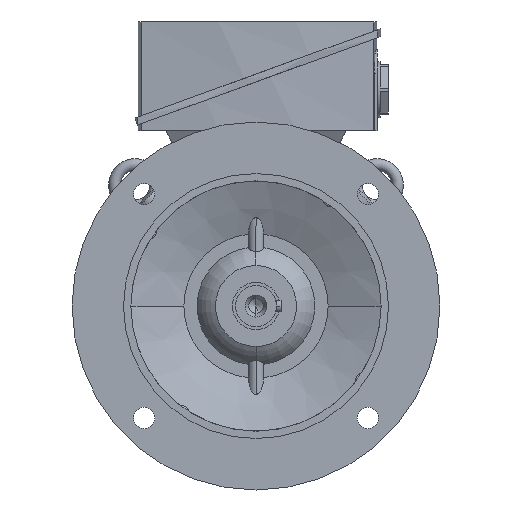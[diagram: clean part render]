
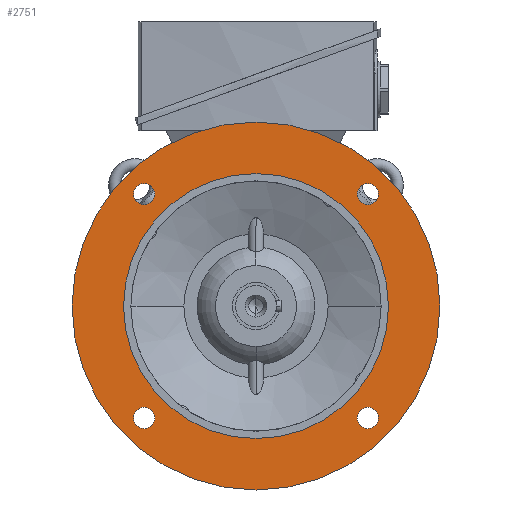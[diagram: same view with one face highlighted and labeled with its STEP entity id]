
A CAD part, left-side view. The second image highlights one B-rep face of the part: STEP entity #2751.
In plain terms, the highlighted planar face has unit normal (-1, 0, 0).
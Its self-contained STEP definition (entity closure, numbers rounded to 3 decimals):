
#2751=ADVANCED_FACE('',(#5562,#5563,#5564,#5565,#5566,#5567),#5568,.T.);
#5562=FACE_BOUND('',#8374,.T.);
#5563=FACE_BOUND('',#8375,.T.);
#5564=FACE_BOUND('',#8376,.T.);
#5565=FACE_BOUND('',#8377,.T.);
#5566=FACE_OUTER_BOUND('',#8378,.T.);
#5567=FACE_BOUND('',#8379,.T.);
#5568=PLANE('',#8380);
#8374=EDGE_LOOP('',(#16935,#16936));
#8375=EDGE_LOOP('',(#16937,#16938));
#8376=EDGE_LOOP('',(#16939,#16940));
#8377=EDGE_LOOP('',(#16941,#16942));
#8378=EDGE_LOOP('',(#16943,#16944));
#8379=EDGE_LOOP('',(#16945,#16946));
#8380=AXIS2_PLACEMENT_3D('',#16947,#16948,#16949);
#16935=ORIENTED_EDGE('',*,*,#20306,.T.);
#16936=ORIENTED_EDGE('',*,*,#17202,.T.);
#16937=ORIENTED_EDGE('',*,*,#20309,.T.);
#16938=ORIENTED_EDGE('',*,*,#17197,.T.);
#16939=ORIENTED_EDGE('',*,*,#20312,.T.);
#16940=ORIENTED_EDGE('',*,*,#17192,.T.);
#16941=ORIENTED_EDGE('',*,*,#20315,.T.);
#16942=ORIENTED_EDGE('',*,*,#17187,.T.);
#16943=ORIENTED_EDGE('',*,*,#17167,.F.);
#16944=ORIENTED_EDGE('',*,*,#20369,.F.);
#16945=ORIENTED_EDGE('',*,*,#17174,.T.);
#16946=ORIENTED_EDGE('',*,*,#20367,.T.);
#16947=CARTESIAN_POINT('',(-40.5,107.5,0.0));
#16948=DIRECTION('',(-1.0,0.0,0.0));
#16949=DIRECTION('',(0.0,-1.0,0.0));
#17167=EDGE_CURVE('',#20642,#20645,#20646,.T.);
#17174=EDGE_CURVE('',#20652,#20656,#20658,.T.);
#17187=EDGE_CURVE('',#20681,#20678,#20682,.T.);
#17192=EDGE_CURVE('',#20690,#20687,#20691,.T.);
#17197=EDGE_CURVE('',#20699,#20696,#20700,.T.);
#17202=EDGE_CURVE('',#20708,#20705,#20709,.T.);
#20306=EDGE_CURVE('',#20705,#20708,#25307,.T.);
#20309=EDGE_CURVE('',#20696,#20699,#25310,.T.);
#20312=EDGE_CURVE('',#20687,#20690,#25313,.T.);
#20315=EDGE_CURVE('',#20678,#20681,#25316,.T.);
#20367=EDGE_CURVE('',#20656,#20652,#25382,.T.);
#20369=EDGE_CURVE('',#20645,#20642,#25384,.T.);
#20642=VERTEX_POINT('',#25973);
#20645=VERTEX_POINT('',#25977);
#20646=CIRCLE('',#25978,125.0);
#20652=VERTEX_POINT('',#25985);
#20656=VERTEX_POINT('',#25990);
#20658=CIRCLE('',#25993,90.0);
#20678=VERTEX_POINT('',#26031);
#20681=VERTEX_POINT('',#26035);
#20682=CIRCLE('',#26036,7.25);
#20687=VERTEX_POINT('',#26042);
#20690=VERTEX_POINT('',#26046);
#20691=CIRCLE('',#26047,7.25);
#20696=VERTEX_POINT('',#26053);
#20699=VERTEX_POINT('',#26057);
#20700=CIRCLE('',#26058,7.25);
#20705=VERTEX_POINT('',#26064);
#20708=VERTEX_POINT('',#26068);
#20709=CIRCLE('',#26069,7.25);
#25307=CIRCLE('',#37664,7.25);
#25310=CIRCLE('',#37667,7.25);
#25313=CIRCLE('',#37670,7.25);
#25316=CIRCLE('',#37673,7.25);
#25382=CIRCLE('',#37813,90.0);
#25384=CIRCLE('',#37815,125.0);
#25973=CARTESIAN_POINT('',(-40.5,125.0,0.0));
#25977=CARTESIAN_POINT('',(-40.5,-125.0,0.));
#25978=AXIS2_PLACEMENT_3D('',#37982,#37983,#37984);
#25985=CARTESIAN_POINT('',(-40.5,90.0,0.0));
#25990=CARTESIAN_POINT('',(-40.5,-90.0,0.));
#25993=AXIS2_PLACEMENT_3D('',#37994,#37995,#37996);
#26031=CARTESIAN_POINT('',(-40.5,-81.141,81.141));
#26035=CARTESIAN_POINT('',(-40.5,-70.887,70.887));
#26036=AXIS2_PLACEMENT_3D('',#38016,#38017,#38018);
#26042=CARTESIAN_POINT('',(-40.5,81.141,81.141));
#26046=CARTESIAN_POINT('',(-40.5,70.887,70.887));
#26047=AXIS2_PLACEMENT_3D('',#38024,#38025,#38026);
#26053=CARTESIAN_POINT('',(-40.5,81.141,-81.141));
#26057=CARTESIAN_POINT('',(-40.5,70.887,-70.887));
#26058=AXIS2_PLACEMENT_3D('',#38032,#38033,#38034);
#26064=CARTESIAN_POINT('',(-40.5,-81.141,-81.141));
#26068=CARTESIAN_POINT('',(-40.5,-70.887,-70.887));
#26069=AXIS2_PLACEMENT_3D('',#38040,#38041,#38042);
#37664=AXIS2_PLACEMENT_3D('',#41110,#41111,#41112);
#37667=AXIS2_PLACEMENT_3D('',#41116,#41117,#41118);
#37670=AXIS2_PLACEMENT_3D('',#41122,#41123,#41124);
#37673=AXIS2_PLACEMENT_3D('',#41128,#41129,#41130);
#37813=AXIS2_PLACEMENT_3D('',#41169,#41170,#41171);
#37815=AXIS2_PLACEMENT_3D('',#41172,#41173,#41174);
#37982=CARTESIAN_POINT('',(-40.5,0.0,0.0));
#37983=DIRECTION('',(1.0,0.0,0.0));
#37984=DIRECTION('',(0.0,1.0,0.0));
#37994=CARTESIAN_POINT('',(-40.5,0.0,0.0));
#37995=DIRECTION('',(1.0,0.0,0.0));
#37996=DIRECTION('',(0.0,1.0,0.0));
#38016=CARTESIAN_POINT('',(-40.5,-76.014,76.014));
#38017=DIRECTION('',(1.0,0.0,-0.0));
#38018=DIRECTION('',(0.0,-0.707,0.707));
#38024=CARTESIAN_POINT('',(-40.5,76.014,76.014));
#38025=DIRECTION('',(1.0,0.0,-0.0));
#38026=DIRECTION('',(0.0,0.707,0.707));
#38032=CARTESIAN_POINT('',(-40.5,76.014,-76.014));
#38033=DIRECTION('',(1.0,-0.0,0.0));
#38034=DIRECTION('',(0.0,0.707,-0.707));
#38040=CARTESIAN_POINT('',(-40.5,-76.014,-76.014));
#38041=DIRECTION('',(1.0,0.0,0.0));
#38042=DIRECTION('',(0.0,-0.707,-0.707));
#41110=CARTESIAN_POINT('',(-40.5,-76.014,-76.014));
#41111=DIRECTION('',(1.0,0.0,0.0));
#41112=DIRECTION('',(0.0,-0.707,-0.707));
#41116=CARTESIAN_POINT('',(-40.5,76.014,-76.014));
#41117=DIRECTION('',(1.0,-0.0,0.0));
#41118=DIRECTION('',(0.0,0.707,-0.707));
#41122=CARTESIAN_POINT('',(-40.5,76.014,76.014));
#41123=DIRECTION('',(1.0,0.0,-0.0));
#41124=DIRECTION('',(0.0,0.707,0.707));
#41128=CARTESIAN_POINT('',(-40.5,-76.014,76.014));
#41129=DIRECTION('',(1.0,0.0,-0.0));
#41130=DIRECTION('',(0.0,-0.707,0.707));
#41169=CARTESIAN_POINT('',(-40.5,0.0,0.0));
#41170=DIRECTION('',(1.0,0.0,0.0));
#41171=DIRECTION('',(0.0,1.0,0.0));
#41172=CARTESIAN_POINT('',(-40.5,0.0,0.0));
#41173=DIRECTION('',(1.0,0.0,0.0));
#41174=DIRECTION('',(0.0,1.0,0.0));
